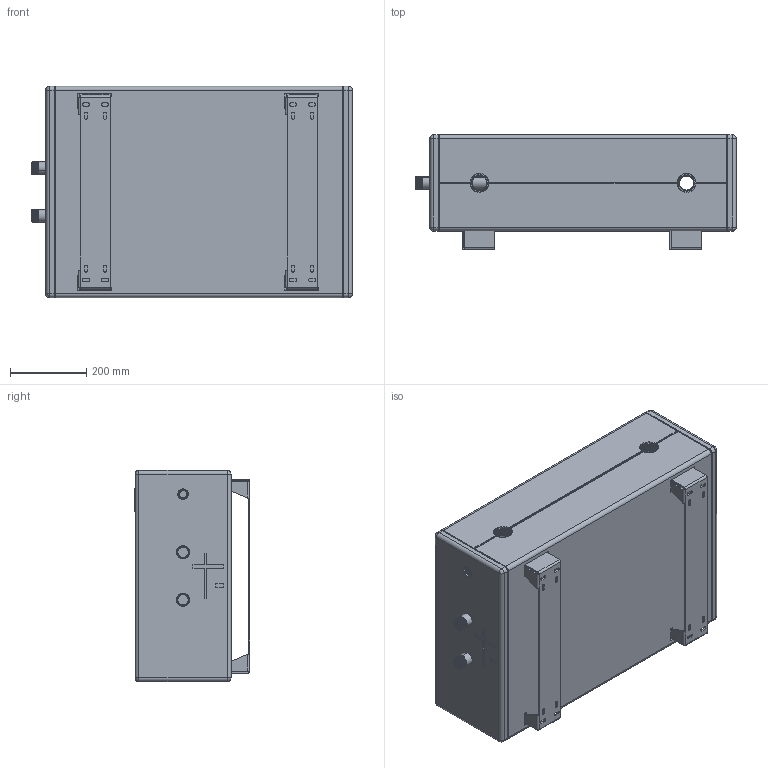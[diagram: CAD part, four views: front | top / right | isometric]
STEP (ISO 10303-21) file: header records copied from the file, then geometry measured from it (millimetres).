
FILE_DESCRIPTION (( 'STEP AP214' ), '1' );
FILE_NAME ('C4008+C4008C_rev2+F2473.STEP', '2022-04-14T13:39:48', ( '' ), ( '' ), 'SwSTEP 2.0', 'SolidWorks 2021', '' );
FILE_SCHEMA (( 'AUTOMOTIVE_DESIGN' ));
Length unit declared in the file: millimetre
Products named in the file (22): F3249; F3144; 05 01 000684_Tr_X_E4gerplatte neutral wei_X_DF (60x20); C4008C-Down; F2473; C4008C-F; F0381; F3248_F2760A-2; Translationsteil_0_AEI Logo; F2473_Chiuso; C4008C-Top; C4008C-M; F0753; C4008C_rev2; F3307; F3247_Default piegata; Translationsteil_1; F2472; 05 01 000794; F2473A; C4008+C4008C_rev2+F2473; F0698
Assembly tree (28 placements, depth 4):
  C4008+C4008C_rev2+F2473
    F0381
    F0698
    F2472  x4
    F3247_Default piegata
    F0753  x2
    F3144  x2
    F3248_F2760A-2
    F3249
    F3307
    F2473_Chiuso  x2
      F2473
      F2473A
    C4008C_rev2
      C4008C-M
      C4008C-F
      C4008C-Top
      C4008C-Down
      05 01 000794
        05 01 000684_Tr_X_E4gerplatte neutral wei_X_DF (60x20)
        Translationsteil_0_AEI Logo
        Translationsteil_1
Bounding box: 843 x 303.05 x 555 mm (x, y, z)
Volume: 55918797.8 mm3; surface area: 6043812.5 mm2
Topology: 33 solids, 33 shells, 2138 faces, 5740 edges, 3744 vertices
Faces by surface type: plane 1090, cylinder 747, bspline 200, cone 93, torus 8
Entity records: 94518 total; most frequent: CARTESIAN_POINT 31226, ORIENTED_EDGE 9474, DIRECTION 8171, EDGE_CURVE 4737, VERTEX_POINT 3106, LINE 3029, VECTOR 3029, AXIS2_PLACEMENT_3D 2571
